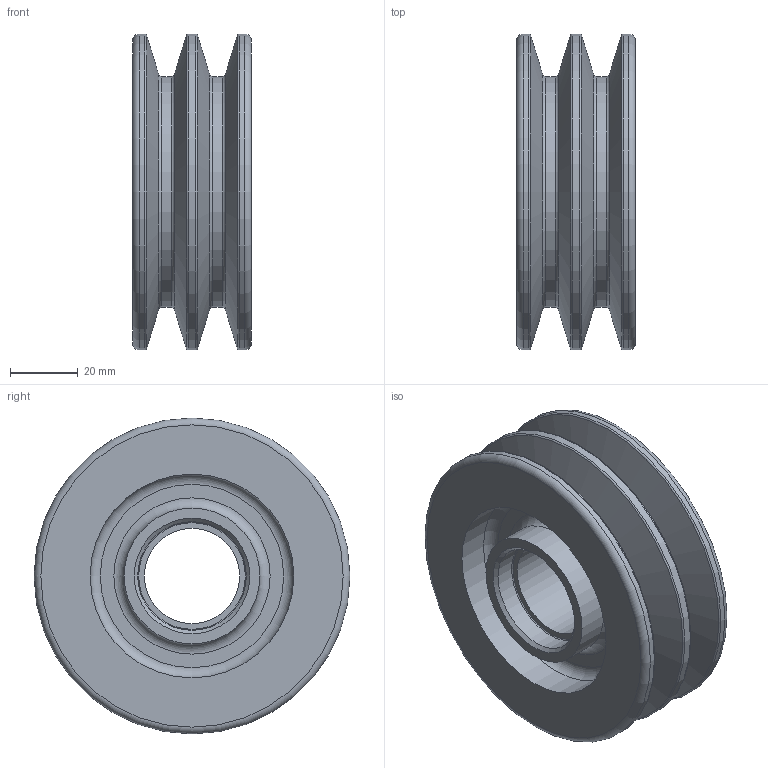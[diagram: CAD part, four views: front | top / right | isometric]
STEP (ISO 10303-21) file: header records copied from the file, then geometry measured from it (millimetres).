
FILE_DESCRIPTION(/* description */ (''),/* implementation_level */ '2;1');
FILE_NAME(/* name */ '',/* time_stamp */ '2025-01-09T17:59:25+09:00',/* author */ ('jhkim'),/* organization */ (''),/* preprocessor_version */ 'ST-DEVELOPER v20',/* originating_system */ 'Autodesk Inventor 2025',/* authorisation */ '');
FILE_SCHEMA (('AUTOMOTIVE_DESIGN { 1 0 10303 214 3 1 1 }'));
Length unit declared in the file: millimetre
Products named in the file (1): V-벨트 풀리
Bounding box: 35 x 93 x 93 mm (x, y, z)
Volume: 123886.9 mm3; surface area: 39704 mm2
Topology: 1 solids, 1 shells, 42 faces, 102 edges, 68 vertices
Faces by surface type: torus 16, cylinder 12, plane 8, cone 6
Full cylindrical faces by diameter (mm): 28 x1, 32 x2, 40 x2, 60 x2, 68 x2, 93 x3
Entity records: 1337 total; most frequent: DIRECTION 272, CARTESIAN_POINT 213, ORIENTED_EDGE 204, AXIS2_PLACEMENT_3D 127, EDGE_CURVE 102, CIRCLE 84, VERTEX_POINT 68, EDGE_LOOP 50
